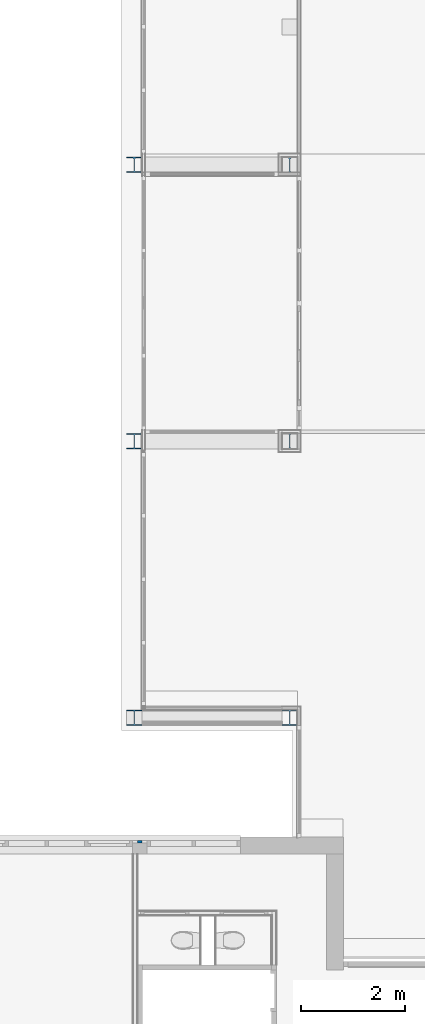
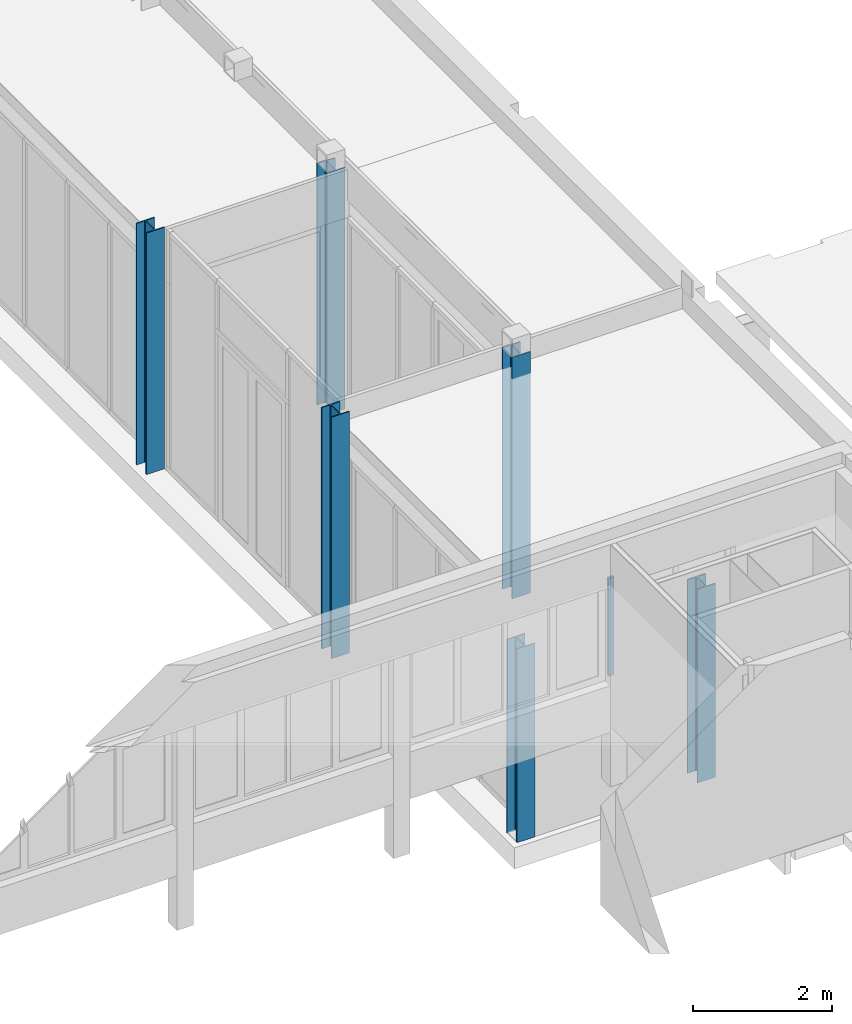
# One storey, part 14 of 99: 7 columns.
"""IFC2X3 building model written with IfcOpenShell, lengths in millimetres."""

from ifc_helpers import new_model, entity, si_unit, converted_unit, derived_unit, money_unit, direction, frame, origin_with_axes, place, context, subcontext, project, spatial, faceted_brep, material, type_object, element, save


model = new_model("IFC2X3")

# Units and contexts
model_context = context("Model", 3, precision=0.01, world=origin_with_axes(), true_north=direction((0.0, 1.0)))
body_context = subcontext(model_context, "Body", "Model", "MODEL_VIEW")
ifc_project = project(units=[si_unit("LENGTHUNIT", "METRE", prefix="MILLI"), si_unit("AREAUNIT", "SQUARE_METRE"), si_unit("VOLUMEUNIT", "CUBIC_METRE"), converted_unit("PLANEANGLEUNIT", "DEGREE", entity("IfcPlaneAngleMeasure", 0.0174532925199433), si_unit("PLANEANGLEUNIT", "RADIAN"), dimensions=[0, 0, 0, 0, 0, 0, 0]), money_unit("EUR"), converted_unit("TIMEUNIT", "Year", entity("IfcTimeMeasure", 31557600.0), si_unit("TIMEUNIT", "SECOND"), dimensions=[0, 0, 1, 0, 0, 0, 0]), si_unit("MASSUNIT", "GRAM", prefix="KILO"), si_unit("THERMODYNAMICTEMPERATUREUNIT", "DEGREE_CELSIUS"), si_unit("LUMINOUSINTENSITYUNIT", "LUMEN"), si_unit("ENERGYUNIT", "JOULE", prefix="MEGA"), derived_unit("THERMALCONDUCTANCEUNIT", [(si_unit("POWERUNIT", "WATT"), 1), (si_unit("LENGTHUNIT", "METRE"), -1), (si_unit("THERMODYNAMICTEMPERATUREUNIT", "KELVIN"), -1)]), derived_unit("SPECIFICHEATCAPACITYUNIT", [(si_unit("ENERGYUNIT", "JOULE"), 1), (si_unit("MASSUNIT", "GRAM", prefix="KILO"), -1), (si_unit("THERMODYNAMICTEMPERATUREUNIT", "KELVIN"), -1)]), derived_unit("MASSDENSITYUNIT", [(si_unit("MASSUNIT", "GRAM", prefix="KILO"), 1), (si_unit("VOLUMEUNIT", "CUBIC_METRE"), -1)])], contexts=[model_context])

# Site, building, storey
site_placement = place(None, origin_with_axes())
site = spatial("IfcSite", under=ifc_project, at=site_placement, Name="Site", CompositionType="ELEMENT")
building_placement = place(site_placement, origin_with_axes())
building = spatial("IfcBuilding", under=site, at=building_placement, Name="Naam gebouw", CompositionType="ELEMENT")
storey_placement = place(building_placement, frame((0.0, 0.0, 7650.0), z_axis=(0.0, 0.0, 1.0), x_axis=(1.0, 0.0, 0.0)))
storey = spatial("IfcBuildingStorey", under=building, at=storey_placement, Name="2e verdieping N", CompositionType="ELEMENT", Elevation=7650.0)

# Columns
ifc_material_1 = material(Name="Metaal - Staal C")
column_type_1 = type_object("IfcColumnType", Name="Metaal - Staal C 90 x 44", PredefinedType="COLUMN")
column_1_placement = place(storey_placement, frame((14400.0, 20233.89452790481, 719.9999999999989), z_axis=(0.0, 0.0, 1.0), x_axis=(-1.0, 0.0, 0.0)))
element("IfcColumn", 1, at=column_1_placement, inside=storey, type_object=column_type_1, material=ifc_material_1, Name="_Kolom-x", ObjectType="COLUMN", context=body_context, shape_type="Brep", body=[
    faceted_brep([(-44.99999999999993, -15.00989562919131, 28.51433297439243), (-44.99999999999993, -17.0098956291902, 28.51433297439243), (-44.99999999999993, -17.0098956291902, 18.51433297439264), (-44.99999999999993, -21.99999999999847, 17.63444293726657), (-44.99999999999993, -21.99999999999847, 1720.000000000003), (-44.99999999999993, 21.99999999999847, 1720.000000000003), (-44.99999999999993, 21.99999999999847, 0.0), (-44.99999999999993, -21.99999999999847, 0.0), (-44.99999999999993, -21.99999999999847, 15.60358971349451), (-44.99999999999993, -15.00989562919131, 16.83613371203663), (44.99999999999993, -17.00988610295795, 28.51433297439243), (44.99999999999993, -15.00988610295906, 28.51433297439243), (44.99999999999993, -17.00988610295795, 18.51433297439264), (44.99999999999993, -21.99999999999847, 17.63444125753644), (44.99999999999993, -21.99999999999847, 1720.000000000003), (44.99999999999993, 21.99999999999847, 1720.000000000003), (44.99999999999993, 21.99999999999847, 0.0), (44.99999999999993, -21.99999999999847, 0.0), (44.99999999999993, -21.99999999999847, 15.60358803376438), (44.99999999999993, -15.00988610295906, 16.83613371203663)], [[[0, 1, 2, 3, 4, 5, 6, 7, 8, 9]], [[10, 1, 0, 11]], [[12, 2, 1, 10]], [[12, 13, 3, 2]], [[4, 3, 13, 14]], [[15, 5, 4, 14]], [[5, 15, 16, 6]], [[16, 17, 7, 6]], [[17, 18, 8, 7]], [[19, 9, 8, 18]], [[11, 0, 9, 19]], [[11, 19, 18, 17, 16, 15, 14, 13, 12, 10]]]),
])
ifc_material_2 = material(Name="staal geanodiseerd RAL 7024")
column_type_2 = type_object("IfcColumnType", Name="NLRS_28_SCO_staal - kolom - HEB:HE300B", PredefinedType="COLUMN")
column_2_placement = place(storey_placement, frame((14291.00000005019, 22625.91242633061, -3500.0), z_axis=(0.0, 0.0, 1.0), x_axis=(1.0, 0.0, 0.0)))
element("IfcColumn", 2, at=column_2_placement, inside=storey, type_object=column_type_2, material=ifc_material_2, Name="NLRS_28_SCO_staal - kolom - HEB:HE300B", ObjectType="COLUMN", context=body_context, shape_type="Brep", body=[
    faceted_brep([(-150.0000000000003, 150.0000000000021, 3400.000000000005), (-150.0000000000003, 150.0000000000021, 0.0), (-149.9999999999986, 131.0000000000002, 0.0), (-149.9999999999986, 131.0000000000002, 3400.000000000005), (150.0000000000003, 150.0000000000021, 3400.000000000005), (150.0000000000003, 150.0000000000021, 0.0), (150.0000000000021, 131.0000000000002, 0.0), (32.50000000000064, 131.0000000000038, 0.0), (19.0000000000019, 127.3826859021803, 0.0), (9.117314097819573, 117.4999999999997, 0.0), (5.500000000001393, 103.9999999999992, 0.0), (5.500000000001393, -103.9999999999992, 0.0), (9.117314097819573, -117.4999999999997, 0.0), (19.00000000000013, -127.3826859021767, 0.0), (32.50000000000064, -130.9999999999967, 0.0), (150.0000000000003, -130.9999999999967, 0.0), (150.0000000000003, -149.9999999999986, 0.0), (-150.0000000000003, -149.9999999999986, 0.0), (-150.0000000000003, -130.9999999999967, 0.0), (-32.49999999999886, -130.9999999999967, 0.0), (-19.00000000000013, -127.3826859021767, 0.0), (-9.117314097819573, -117.4999999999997, 0.0), (-5.499999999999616, -103.9999999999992, 0.0), (-5.499999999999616, 103.9999999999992, 0.0), (-9.117314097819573, 117.4999999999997, 0.0), (-18.99999999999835, 127.3826859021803, 0.0), (-32.49999999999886, 131.0000000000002, 0.0), (-32.49999999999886, 131.0000000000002, 3400.000000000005), (-18.99999999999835, 127.3826859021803, 3400.000000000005), (-9.117314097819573, 117.4999999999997, 3400.000000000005), (-5.499999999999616, 103.9999999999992, 3400.000000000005), (-5.499999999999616, -103.9999999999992, 3400.000000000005), (-9.117314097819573, -117.4999999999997, 3400.000000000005), (-19.00000000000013, -127.3826859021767, 3400.000000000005), (-32.49999999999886, -130.9999999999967, 3400.000000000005), (-150.0000000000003, -130.9999999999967, 3400.000000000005), (-150.0000000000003, -149.9999999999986, 3400.000000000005), (150.0000000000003, -149.9999999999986, 3400.000000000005), (150.0000000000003, -130.9999999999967, 3400.000000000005), (32.50000000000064, -130.9999999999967, 3400.000000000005), (19.00000000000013, -127.3826859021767, 3400.000000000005), (9.117314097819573, -117.4999999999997, 3400.000000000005), (5.500000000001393, -103.9999999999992, 3400.000000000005), (5.500000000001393, 103.9999999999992, 3400.000000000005), (9.117314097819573, 117.4999999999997, 3400.000000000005), (19.0000000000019, 127.3826859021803, 3400.000000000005), (32.50000000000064, 131.0000000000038, 3400.000000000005), (150.0000000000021, 131.0000000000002, 3400.000000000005)], [[[0, 1, 2, 3]], [[4, 5, 1, 0]], [[2, 1, 5, 6, 7, 8, 9, 10, 11, 12, 13, 14, 15, 16, 17, 18, 19, 20, 21, 22, 23, 24, 25, 26]], [[3, 2, 26, 27]], [[4, 0, 3, 27, 28, 29, 30, 31, 32, 33, 34, 35, 36, 37, 38, 39, 40, 41, 42, 43, 44, 45, 46, 47]], [[47, 6, 5, 4]], [[46, 7, 6, 47]], [[45, 8, 7, 46]], [[44, 9, 8, 45]], [[43, 10, 9, 44]], [[42, 11, 10, 43]], [[41, 12, 11, 42]], [[40, 13, 12, 41]], [[39, 14, 13, 40]], [[38, 15, 14, 39]], [[37, 16, 15, 38]], [[36, 17, 16, 37]], [[35, 18, 17, 36]], [[34, 19, 18, 35]], [[33, 20, 19, 34]], [[32, 21, 20, 33]], [[31, 22, 21, 32]], [[30, 23, 22, 31]], [[29, 24, 23, 30]], [[28, 25, 24, 29]], [[27, 26, 25, 28]]]),
])
column_type_3 = type_object("IfcColumnType", Name="NLRS_28_SCO_staal - kolom - HEB:HE300B", PredefinedType="COLUMN")
column_3_placement = place(storey_placement, frame((14291.00000002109, 33285.912426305, -3500.0), z_axis=(0.0, 0.0, 1.0), x_axis=(1.0, 0.0, 0.0)))
element("IfcColumn", 3, at=column_3_placement, inside=storey, type_object=column_type_3, material=ifc_material_2, Name="NLRS_28_SCO_staal - kolom - HEB:HE300B", ObjectType="COLUMN", context=body_context, shape_type="Brep", body=[
    faceted_brep([(-150.0000000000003, 149.9999999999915, 4240.0), (-150.0000000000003, 149.9999999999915, 0.0), (-150.0000000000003, 130.9999999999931, 0.0), (-150.0000000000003, 130.9999999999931, 4240.0), (150.0000000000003, 149.9999999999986, 4240.0), (150.0000000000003, 149.9999999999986, 0.0), (150.0000000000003, 131.0000000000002, 0.0), (32.49999999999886, 131.0000000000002, 0.0), (19.00000000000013, 127.3826859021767, 0.0), (9.117314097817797, 117.4999999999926, 0.0), (5.499999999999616, 103.9999999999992, 0.0), (5.499999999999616, -103.9999999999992, 0.0), (9.117314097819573, -117.5000000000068, 0.0), (18.99999999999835, -127.3826859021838, 0.0), (32.49999999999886, -131.0000000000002, 0.0), (149.9999999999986, -131.0000000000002, 0.0), (150.0000000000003, -149.9999999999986, 0.0), (-150.0000000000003, -150.0000000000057, 0.0), (-150.0000000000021, -131.0000000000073, 0.0), (-32.50000000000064, -131.0000000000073, 0.0), (-19.0000000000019, -127.3826859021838, 0.0), (-9.117314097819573, -117.4999999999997, 0.0), (-5.500000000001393, -104.0000000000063, 0.0), (-5.500000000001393, 103.9999999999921, 0.0), (-9.11731409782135, 117.4999999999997, 0.0), (-19.00000000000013, 127.3826859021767, 0.0), (-32.50000000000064, 130.9999999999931, 0.0), (-32.50000000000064, 130.9999999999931, 4240.0), (-19.00000000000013, 127.3826859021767, 4240.0), (-9.11731409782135, 117.4999999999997, 4240.0), (-5.500000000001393, 103.9999999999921, 4240.0), (-5.500000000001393, -104.0000000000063, 4240.0), (-9.117314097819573, -117.4999999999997, 4240.0), (-19.0000000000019, -127.3826859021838, 4240.0), (-32.50000000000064, -131.0000000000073, 4240.0), (-150.0000000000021, -131.0000000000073, 4240.0), (-150.0000000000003, -150.0000000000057, 4240.0), (150.0000000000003, -149.9999999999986, 4240.0), (149.9999999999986, -131.0000000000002, 4240.0), (32.49999999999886, -131.0000000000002, 4240.0), (18.99999999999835, -127.3826859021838, 4240.0), (9.117314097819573, -117.5000000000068, 4240.0), (5.499999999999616, -103.9999999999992, 4240.0), (5.499999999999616, 103.9999999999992, 4240.0), (9.117314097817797, 117.4999999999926, 4240.0), (19.00000000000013, 127.3826859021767, 4240.0), (32.49999999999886, 131.0000000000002, 4240.0), (150.0000000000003, 131.0000000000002, 4240.0)], [[[0, 1, 2, 3]], [[4, 5, 1, 0]], [[2, 1, 5, 6, 7, 8, 9, 10, 11, 12, 13, 14, 15, 16, 17, 18, 19, 20, 21, 22, 23, 24, 25, 26]], [[3, 2, 26, 27]], [[4, 0, 3, 27, 28, 29, 30, 31, 32, 33, 34, 35, 36, 37, 38, 39, 40, 41, 42, 43, 44, 45, 46, 47]], [[47, 6, 5, 4]], [[46, 7, 6, 47]], [[45, 8, 7, 46]], [[44, 9, 8, 45]], [[43, 10, 9, 44]], [[42, 11, 10, 43]], [[41, 12, 11, 42]], [[40, 13, 12, 41]], [[39, 14, 13, 40]], [[38, 15, 14, 39]], [[37, 16, 15, 38]], [[36, 17, 16, 37]], [[35, 18, 17, 36]], [[34, 19, 18, 35]], [[33, 20, 19, 34]], [[32, 21, 20, 33]], [[31, 22, 21, 32]], [[30, 23, 22, 31]], [[29, 24, 23, 30]], [[28, 25, 24, 29]], [[27, 26, 25, 28]]]),
])
column_4_placement = place(storey_placement, frame((14290.99999999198, 27955.91242628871, -3500.0), z_axis=(0.0, 0.0, 1.0), x_axis=(1.0, 0.0, 0.0)))
element("IfcColumn", 4, at=column_4_placement, inside=storey, type_object=column_type_3, material=ifc_material_2, Name="NLRS_28_SCO_staal - kolom - HEB:HE300B", ObjectType="COLUMN", context=body_context, shape_type="Brep", body=[
    faceted_brep([(-150.0000000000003, 150.0000000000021, 4239.999999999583), (-150.0000000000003, 150.0000000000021, 0.0), (-149.9999999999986, 131.0000000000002, 0.0), (-149.9999999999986, 131.0000000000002, 4239.999999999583), (150.0000000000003, 150.0000000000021, 4239.999999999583), (150.0000000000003, 150.0000000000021, 0.0), (150.0000000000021, 131.0000000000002, 0.0), (32.50000000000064, 131.0000000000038, 0.0), (19.0000000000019, 127.3826859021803, 0.0), (9.117314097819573, 117.4999999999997, 0.0), (5.500000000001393, 103.9999999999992, 0.0), (5.500000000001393, -103.9999999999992, 0.0), (9.11731409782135, -117.4999999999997, 0.0), (19.00000000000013, -127.3826859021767, 0.0), (32.50000000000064, -130.9999999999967, 0.0), (150.0000000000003, -130.9999999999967, 0.0), (150.0000000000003, -149.9999999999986, 0.0), (-150.0000000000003, -149.9999999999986, 0.0), (-150.0000000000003, -130.9999999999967, 0.0), (-32.49999999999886, -130.9999999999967, 0.0), (-19.00000000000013, -127.3826859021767, 0.0), (-9.117314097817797, -117.4999999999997, 0.0), (-5.499999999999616, -103.9999999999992, 0.0), (-5.499999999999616, 103.9999999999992, 0.0), (-9.117314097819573, 117.4999999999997, 0.0), (-18.99999999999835, 127.3826859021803, 0.0), (-32.49999999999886, 131.0000000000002, 0.0), (-32.49999999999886, 131.0000000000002, 4239.999999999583), (-18.99999999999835, 127.3826859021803, 4239.999999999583), (-9.117314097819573, 117.4999999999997, 4239.999999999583), (-5.499999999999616, 103.9999999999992, 4239.999999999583), (-5.499999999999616, -103.9999999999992, 4239.999999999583), (-9.117314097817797, -117.4999999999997, 4239.999999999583), (-19.00000000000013, -127.3826859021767, 4239.999999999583), (-32.49999999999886, -130.9999999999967, 4239.999999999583), (-150.0000000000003, -130.9999999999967, 4239.999999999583), (-150.0000000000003, -149.9999999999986, 4239.999999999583), (150.0000000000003, -149.9999999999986, 4239.999999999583), (150.0000000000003, -130.9999999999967, 4239.999999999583), (32.50000000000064, -130.9999999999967, 4239.999999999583), (19.00000000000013, -127.3826859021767, 4239.999999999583), (9.11731409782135, -117.4999999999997, 4239.999999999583), (5.500000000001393, -103.9999999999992, 4239.999999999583), (5.500000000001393, 103.9999999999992, 4239.999999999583), (9.117314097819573, 117.4999999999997, 4239.999999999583), (19.0000000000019, 127.3826859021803, 4239.999999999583), (32.50000000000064, 131.0000000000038, 4239.999999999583), (150.0000000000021, 131.0000000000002, 4239.999999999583)], [[[0, 1, 2, 3]], [[4, 5, 1, 0]], [[2, 1, 5, 6, 7, 8, 9, 10, 11, 12, 13, 14, 15, 16, 17, 18, 19, 20, 21, 22, 23, 24, 25, 26]], [[3, 2, 26, 27]], [[4, 0, 3, 27, 28, 29, 30, 31, 32, 33, 34, 35, 36, 37, 38, 39, 40, 41, 42, 43, 44, 45, 46, 47]], [[47, 6, 5, 4]], [[46, 7, 6, 47]], [[45, 8, 7, 46]], [[44, 9, 8, 45]], [[43, 10, 9, 44]], [[42, 11, 10, 43]], [[41, 12, 11, 42]], [[40, 13, 12, 41]], [[39, 14, 13, 40]], [[38, 15, 14, 39]], [[37, 16, 15, 38]], [[36, 17, 16, 37]], [[35, 18, 17, 36]], [[34, 19, 18, 35]], [[33, 20, 19, 34]], [[32, 21, 20, 33]], [[31, 22, 21, 32]], [[30, 23, 22, 31]], [[29, 24, 23, 30]], [[28, 25, 24, 29]], [[27, 26, 25, 28]]]),
])
column_5_placement = place(storey_placement, frame((17291.00000005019, 27955.91242628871, -3500.0), z_axis=(0.0, 0.0, 1.0), x_axis=(1.0, 0.0, 0.0)))
element("IfcColumn", 5, at=column_5_placement, inside=storey, type_object=column_type_3, material=ifc_material_2, Name="NLRS_28_SCO_staal - kolom - HEB:HE300B", ObjectType="COLUMN", context=body_context, shape_type="Brep", body=[
    faceted_brep([(-149.9999999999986, 150.0000000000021, 4239.999999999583), (-149.9999999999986, 150.0000000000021, 0.0), (-149.9999999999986, 131.0000000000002, 0.0), (-149.9999999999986, 131.0000000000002, 4239.999999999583), (150.0000000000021, 150.0000000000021, 4239.999999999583), (150.0000000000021, 150.0000000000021, 0.0), (149.9999999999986, 131.0000000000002, 0.0), (32.49999999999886, 131.0000000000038, 0.0), (19.0000000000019, 127.3826859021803, 0.0), (9.11731409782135, 117.4999999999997, 0.0), (5.500000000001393, 103.9999999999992, 0.0), (5.49999999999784, -103.9999999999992, 0.0), (9.11731409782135, -117.4999999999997, 0.0), (19.0000000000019, -127.3826859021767, 0.0), (32.49999999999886, -130.9999999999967, 0.0), (149.9999999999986, -130.9999999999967, 0.0), (150.0000000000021, -149.9999999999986, 0.0), (-149.9999999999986, -149.9999999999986, 0.0), (-149.9999999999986, -130.9999999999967, 0.0), (-32.49999999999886, -130.9999999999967, 0.0), (-18.99999999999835, -127.3826859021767, 0.0), (-9.11731409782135, -117.4999999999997, 0.0), (-5.500000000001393, -103.9999999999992, 0.0), (-5.49999999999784, 103.9999999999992, 0.0), (-9.11731409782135, 117.4999999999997, 0.0), (-18.99999999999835, 127.3826859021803, 0.0), (-32.49999999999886, 131.0000000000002, 0.0), (-32.49999999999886, 131.0000000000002, 4239.999999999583), (-18.99999999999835, 127.3826859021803, 4239.999999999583), (-9.11731409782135, 117.4999999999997, 4239.999999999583), (-5.49999999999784, 103.9999999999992, 4239.999999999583), (-5.500000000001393, -103.9999999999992, 4239.999999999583), (-9.11731409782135, -117.4999999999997, 4239.999999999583), (-18.99999999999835, -127.3826859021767, 4239.999999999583), (-32.49999999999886, -130.9999999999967, 4239.999999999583), (-149.9999999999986, -130.9999999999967, 4239.999999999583), (-149.9999999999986, -149.9999999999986, 4239.999999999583), (150.0000000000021, -149.9999999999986, 4239.999999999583), (149.9999999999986, -130.9999999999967, 4239.999999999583), (32.49999999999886, -130.9999999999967, 4239.999999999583), (19.0000000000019, -127.3826859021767, 4239.999999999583), (9.11731409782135, -117.4999999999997, 4239.999999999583), (5.49999999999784, -103.9999999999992, 4239.999999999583), (5.500000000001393, 103.9999999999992, 4239.999999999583), (9.11731409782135, 117.4999999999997, 4239.999999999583), (19.0000000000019, 127.3826859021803, 4239.999999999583), (32.49999999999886, 131.0000000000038, 4239.999999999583), (149.9999999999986, 131.0000000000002, 4239.999999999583)], [[[0, 1, 2, 3]], [[4, 5, 1, 0]], [[2, 1, 5, 6, 7, 8, 9, 10, 11, 12, 13, 14, 15, 16, 17, 18, 19, 20, 21, 22, 23, 24, 25, 26]], [[3, 2, 26, 27]], [[4, 0, 3, 27, 28, 29, 30, 31, 32, 33, 34, 35, 36, 37, 38, 39, 40, 41, 42, 43, 44, 45, 46, 47]], [[47, 6, 5, 4]], [[46, 7, 6, 47]], [[45, 8, 7, 46]], [[44, 9, 8, 45]], [[43, 10, 9, 44]], [[42, 11, 10, 43]], [[41, 12, 11, 42]], [[40, 13, 12, 41]], [[39, 14, 13, 40]], [[38, 15, 14, 39]], [[37, 16, 15, 38]], [[36, 17, 16, 37]], [[35, 18, 17, 36]], [[34, 19, 18, 35]], [[33, 20, 19, 34]], [[32, 21, 20, 33]], [[31, 22, 21, 32]], [[30, 23, 22, 31]], [[29, 24, 23, 30]], [[28, 25, 24, 29]], [[27, 26, 25, 28]]]),
])
column_6_placement = place(storey_placement, frame((17291.00000005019, 33285.912426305, -3500.0), z_axis=(0.0, 0.0, 1.0), x_axis=(1.0, 0.0, 0.0)))
element("IfcColumn", 6, at=column_6_placement, inside=storey, type_object=column_type_3, material=ifc_material_2, Name="NLRS_28_SCO_staal - kolom - HEB:HE300B", ObjectType="COLUMN", context=body_context, shape_type="Brep", body=[
    faceted_brep([(-150.0000000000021, 149.9999999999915, 4239.999999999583), (-150.0000000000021, 149.9999999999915, 0.0), (-149.9999999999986, 130.9999999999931, 0.0), (-149.9999999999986, 130.9999999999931, 4239.999999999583), (149.9999999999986, 149.9999999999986, 4239.999999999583), (149.9999999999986, 149.9999999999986, 0.0), (149.9999999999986, 131.0000000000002, 0.0), (32.49999999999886, 131.0000000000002, 0.0), (18.99999999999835, 127.3826859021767, 0.0), (9.11731409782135, 117.4999999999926, 0.0), (5.500000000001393, 103.9999999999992, 0.0), (5.49999999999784, -103.9999999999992, 0.0), (9.11731409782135, -117.5000000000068, 0.0), (18.99999999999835, -127.3826859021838, 0.0), (32.49999999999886, -131.0000000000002, 0.0), (149.9999999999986, -131.0000000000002, 0.0), (149.9999999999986, -149.9999999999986, 0.0), (-150.0000000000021, -150.0000000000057, 0.0), (-149.9999999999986, -131.0000000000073, 0.0), (-32.49999999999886, -131.0000000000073, 0.0), (-19.0000000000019, -127.3826859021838, 0.0), (-9.11731409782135, -117.4999999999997, 0.0), (-5.500000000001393, -104.0000000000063, 0.0), (-5.49999999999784, 103.9999999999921, 0.0), (-9.11731409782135, 117.4999999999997, 0.0), (-19.0000000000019, 127.3826859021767, 0.0), (-32.49999999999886, 130.9999999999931, 0.0), (-32.49999999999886, 130.9999999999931, 4239.999999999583), (-19.0000000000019, 127.3826859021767, 4239.999999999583), (-9.11731409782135, 117.4999999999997, 4239.999999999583), (-5.49999999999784, 103.9999999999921, 4239.999999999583), (-5.500000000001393, -104.0000000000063, 4239.999999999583), (-9.11731409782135, -117.4999999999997, 4239.999999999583), (-19.0000000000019, -127.3826859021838, 4239.999999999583), (-32.49999999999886, -131.0000000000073, 4239.999999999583), (-149.9999999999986, -131.0000000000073, 4239.999999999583), (-150.0000000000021, -150.0000000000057, 4239.999999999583), (149.9999999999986, -149.9999999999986, 4239.999999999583), (149.9999999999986, -131.0000000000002, 4239.999999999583), (32.49999999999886, -131.0000000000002, 4239.999999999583), (18.99999999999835, -127.3826859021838, 4239.999999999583), (9.11731409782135, -117.5000000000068, 4239.999999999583), (5.49999999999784, -103.9999999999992, 4239.999999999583), (5.500000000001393, 103.9999999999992, 4239.999999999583), (9.11731409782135, 117.4999999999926, 4239.999999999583), (18.99999999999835, 127.3826859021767, 4239.999999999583), (32.49999999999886, 131.0000000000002, 4239.999999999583), (149.9999999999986, 131.0000000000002, 4239.999999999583)], [[[0, 1, 2, 3]], [[4, 5, 1, 0]], [[2, 1, 5, 6, 7, 8, 9, 10, 11, 12, 13, 14, 15, 16, 17, 18, 19, 20, 21, 22, 23, 24, 25, 26]], [[3, 2, 26, 27]], [[4, 0, 3, 27, 28, 29, 30, 31, 32, 33, 34, 35, 36, 37, 38, 39, 40, 41, 42, 43, 44, 45, 46, 47]], [[47, 6, 5, 4]], [[46, 7, 6, 47]], [[45, 8, 7, 46]], [[44, 9, 8, 45]], [[43, 10, 9, 44]], [[42, 11, 10, 43]], [[41, 12, 11, 42]], [[40, 13, 12, 41]], [[39, 14, 13, 40]], [[38, 15, 14, 39]], [[37, 16, 15, 38]], [[36, 17, 16, 37]], [[35, 18, 17, 36]], [[34, 19, 18, 35]], [[33, 20, 19, 34]], [[32, 21, 20, 33]], [[31, 22, 21, 32]], [[30, 23, 22, 31]], [[29, 24, 23, 30]], [[28, 25, 24, 29]], [[27, 26, 25, 28]]]),
])
column_type_4 = type_object("IfcColumnType", Name="NLRS_28_SCO_staal - kolom - HEB:HE300B", PredefinedType="COLUMN")
column_7_placement = place(storey_placement, frame((17291.00000002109, 22625.91242627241, -3500.0), z_axis=(0.0, 0.0, 1.0), x_axis=(1.0, 0.0, 0.0)))
element("IfcColumn", 7, at=column_7_placement, inside=storey, type_object=column_type_4, material=ifc_material_2, Name="NLRS_28_SCO_staal - kolom - HEB:HE300B", ObjectType="COLUMN", context=body_context, shape_type="Brep", body=[
    faceted_brep([(-150.0000000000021, 150.0000000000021, 3399.999999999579), (-150.0000000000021, 150.0000000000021, 0.0), (-149.9999999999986, 131.0000000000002, 0.0), (-149.9999999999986, 131.0000000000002, 3399.999999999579), (149.9999999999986, 150.0000000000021, 3399.999999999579), (149.9999999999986, 150.0000000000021, 0.0), (149.9999999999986, 131.0000000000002, 0.0), (32.49999999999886, 131.0000000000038, 0.0), (18.99999999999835, 127.3826859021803, 0.0), (9.11731409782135, 117.4999999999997, 0.0), (5.49999999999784, 103.9999999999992, 0.0), (5.49999999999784, -103.9999999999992, 0.0), (9.11731409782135, -117.4999999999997, 0.0), (18.99999999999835, -127.3826859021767, 0.0), (32.49999999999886, -130.9999999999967, 0.0), (149.9999999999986, -130.9999999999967, 0.0), (149.9999999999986, -149.9999999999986, 0.0), (-150.0000000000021, -149.9999999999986, 0.0), (-149.9999999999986, -130.9999999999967, 0.0), (-32.49999999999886, -130.9999999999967, 0.0), (-19.0000000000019, -127.3826859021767, 0.0), (-9.11731409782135, -117.4999999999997, 0.0), (-5.500000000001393, -103.9999999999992, 0.0), (-5.500000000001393, 103.9999999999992, 0.0), (-9.11731409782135, 117.4999999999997, 0.0), (-19.0000000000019, 127.3826859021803, 0.0), (-32.49999999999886, 131.0000000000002, 0.0), (-32.49999999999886, 131.0000000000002, 3399.999999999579), (-19.0000000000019, 127.3826859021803, 3399.999999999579), (-9.11731409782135, 117.4999999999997, 3399.999999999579), (-5.500000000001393, 103.9999999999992, 3399.999999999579), (-5.500000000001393, -103.9999999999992, 3399.999999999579), (-9.11731409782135, -117.4999999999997, 3399.999999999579), (-19.0000000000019, -127.3826859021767, 3399.999999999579), (-32.49999999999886, -130.9999999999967, 3399.999999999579), (-149.9999999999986, -130.9999999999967, 3399.999999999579), (-150.0000000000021, -149.9999999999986, 3399.999999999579), (149.9999999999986, -149.9999999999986, 3399.999999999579), (149.9999999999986, -130.9999999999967, 3399.999999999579), (32.49999999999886, -130.9999999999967, 3399.999999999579), (18.99999999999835, -127.3826859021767, 3399.999999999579), (9.11731409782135, -117.4999999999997, 3399.999999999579), (5.49999999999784, -103.9999999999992, 3399.999999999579), (5.49999999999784, 103.9999999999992, 3399.999999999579), (9.11731409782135, 117.4999999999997, 3399.999999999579), (18.99999999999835, 127.3826859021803, 3399.999999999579), (32.49999999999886, 131.0000000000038, 3399.999999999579), (149.9999999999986, 131.0000000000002, 3399.999999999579)], [[[0, 1, 2, 3]], [[4, 5, 1, 0]], [[2, 1, 5, 6, 7, 8, 9, 10, 11, 12, 13, 14, 15, 16, 17, 18, 19, 20, 21, 22, 23, 24, 25, 26]], [[3, 2, 26, 27]], [[4, 0, 3, 27, 28, 29, 30, 31, 32, 33, 34, 35, 36, 37, 38, 39, 40, 41, 42, 43, 44, 45, 46, 47]], [[47, 6, 5, 4]], [[46, 7, 6, 47]], [[45, 8, 7, 46]], [[44, 9, 8, 45]], [[43, 10, 9, 44]], [[42, 11, 10, 43]], [[41, 12, 11, 42]], [[40, 13, 12, 41]], [[39, 14, 13, 40]], [[38, 15, 14, 39]], [[37, 16, 15, 38]], [[36, 17, 16, 37]], [[35, 18, 17, 36]], [[34, 19, 18, 35]], [[33, 20, 19, 34]], [[32, 21, 20, 33]], [[31, 22, 21, 32]], [[30, 23, 22, 31]], [[29, 24, 23, 30]], [[28, 25, 24, 29]], [[27, 26, 25, 28]]]),
])

save(model, "model.ifc")
